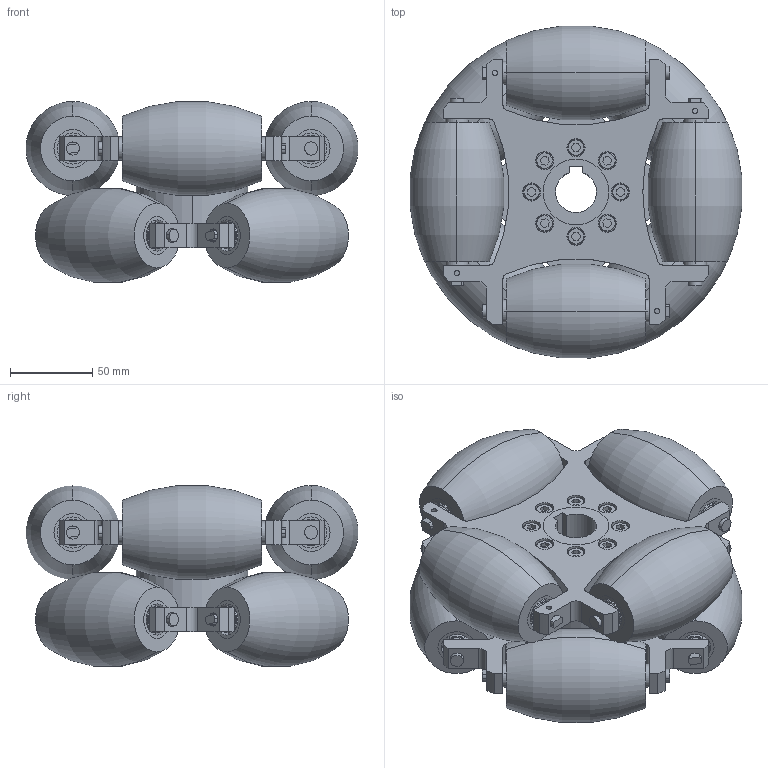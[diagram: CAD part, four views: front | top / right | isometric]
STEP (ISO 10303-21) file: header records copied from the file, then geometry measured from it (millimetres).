
FILE_DESCRIPTION (( 'STEP AP214' ), '1' );
FILE_NAME ('8寸90度.STEP', '2017-02-07T00:35:45', ( '微软用户' ), ( '微软中国' ), 'SwSTEP 2.0', 'SolidWorks 2015', '' );
FILE_SCHEMA (( 'AUTOMOTIVE_DESIGN' ));
Length unit declared in the file: millimetre
Products named in the file (10): 8渡90僅; 轴承挡圈; F7-15; NKI7-16; 8渡4煦90僅晚え; 菜え6X12X2; 8渡4煦90僅嫖粣; 戚芛蹟佪(M6X15) ; 10渡90僅陬謫-蟀諉杶; 10寸90度重载型轮子-弧形轮(A版)
Assembly tree (99 placements, depth 2):
  8渡90僅
    10寸90度重载型轮子-弧形轮(A版)  x8
    10渡90僅陬謫-蟀諉杶
    戚芛蹟佪(M6X15)   x16
    8渡4煦90僅嫖粣  x8
    菜え6X12X2  x16
    8渡4煦90僅晚え  x2
    NKI7-16  x16
    F7-15  x16
    轴承挡圈  x16
Bounding box: 202.31 x 202.31 x 110.24 mm (x, y, z)
Volume: 1842150.7 mm3; surface area: 494491.1 mm2
Topology: 107 solids, 107 shells, 1480 faces, 3216 edges, 2024 vertices
Faces by surface type: cylinder 637, plane 475, torus 208, cone 160
Entity records: 9004 total; most frequent: DIRECTION 1605, CARTESIAN_POINT 1560, ORIENTED_EDGE 1206, AXIS2_PLACEMENT_3D 669, EDGE_CURVE 603, VERTEX_POINT 392, EDGE_LOOP 327, CIRCLE 324
